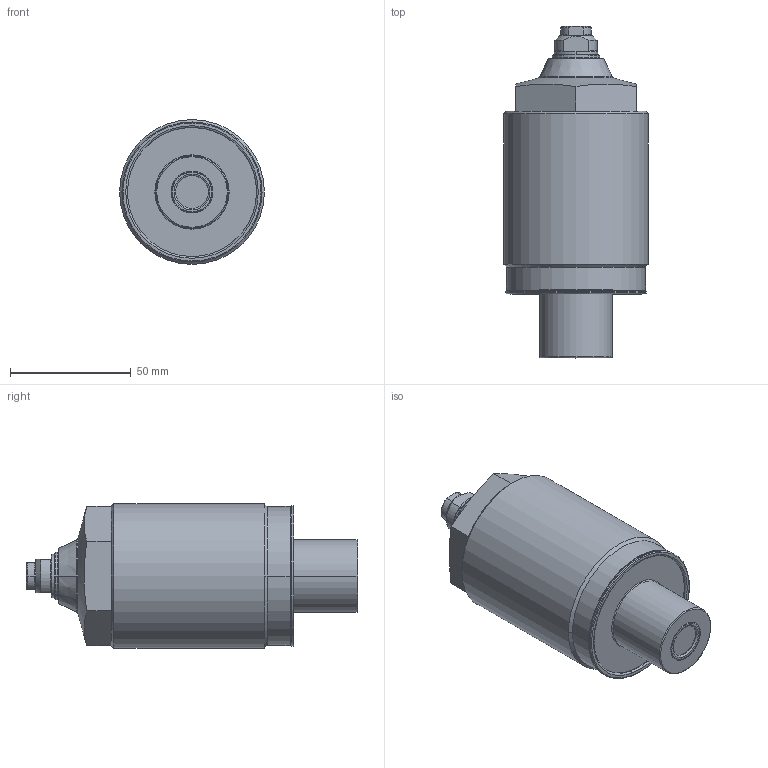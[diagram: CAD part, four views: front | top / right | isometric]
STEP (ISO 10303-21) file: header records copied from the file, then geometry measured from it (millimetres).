
FILE_DESCRIPTION(/* description */ (''),/* implementation_level */ '2;1');
FILE_NAME(/* name */ 'TNL60-Q.stp',/* time_stamp */ '2024-01-16T09:43:05+08:00',/* author */ (''),/* organization */ (''),/* preprocessor_version */ 'ST-DEVELOPER v16.7',/* originating_system */ 'SIEMENS PLM Software NX 12.0',/* authorisation */ '');
FILE_SCHEMA (('AP203_CONFIGURATION_CONTROLLED_3D_DESIGN_OF_MECHANICAL_PARTS_AND_ASSEMBLIES_MIM_LF { 1 0 10303 403 2 1 2}'));
Length unit declared in the file: millimetre
Products named in the file (7): XLC-M10_Oring; XLC-M10_contactbolt; TNL60-Q-4; TNL60-Q-3; TNL60-Q-2; TNL60-Q-1; WNC6003-Q_step
Assembly tree (6 placements, depth 3):
  WNC6003-Q_step
    TNL60-Q-1
      XLC-M10_contactbolt
      XLC-M10_Oring
    TNL60-Q-2
    TNL60-Q-3
    TNL60-Q-4
Bounding box: 60 x 137.5 x 60 mm (x, y, z)
Volume: 263915.4 mm3; surface area: 29626.6 mm2
Topology: 5 solids, 5 shells, 141 faces, 303 edges, 182 vertices
Faces by surface type: torus 48, cylinder 40, plane 31, cone 20, sphere 2
Full cylindrical faces by diameter (mm): 60 x1
Entity records: 4786 total; most frequent: CARTESIAN_POINT 815, DIRECTION 773, ORIENTED_EDGE 600, AXIS2_PLACEMENT_3D 347, EDGE_CURVE 300, CIRCLE 199, VERTEX_POINT 182, EDGE_LOOP 160
